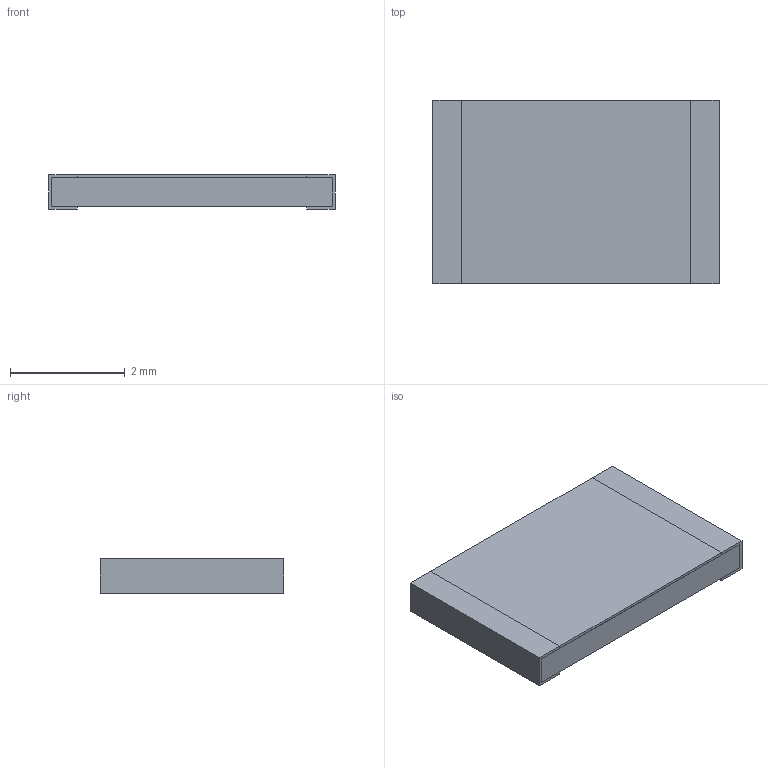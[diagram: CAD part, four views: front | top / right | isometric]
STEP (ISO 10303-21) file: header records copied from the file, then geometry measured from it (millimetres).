
FILE_DESCRIPTION(('STEP AP203'), '1');
FILE_NAME('P1-8B-2012', '', ('UNSPECIFIED'), ('UNSPECIFIED'), 'ASCON STEP Converter 1.6', 'ASCON Math Kernel', '');
FILE_SCHEMA(('CONFIG_CONTROL_DESIGN'));
Length unit declared in the file: millimetre
Bounding box: 5 x 3.2 x 0.6 mm (x, y, z)
Volume: 9 mm3; surface area: 86.2 mm2
Topology: 4 solids, 5 shells, 51 faces, 123 edges, 82 vertices
Faces by surface type: plane 47, cylinder 4
Entity records: 1937 total; most frequent: CARTESIAN_POINT 257, ORIENTED_EDGE 246, DIRECTION 235, EDGE_CURVE 123, LINE 115, VECTOR 115, VERTEX_POINT 82, AXIS2_PLACEMENT_3D 60
